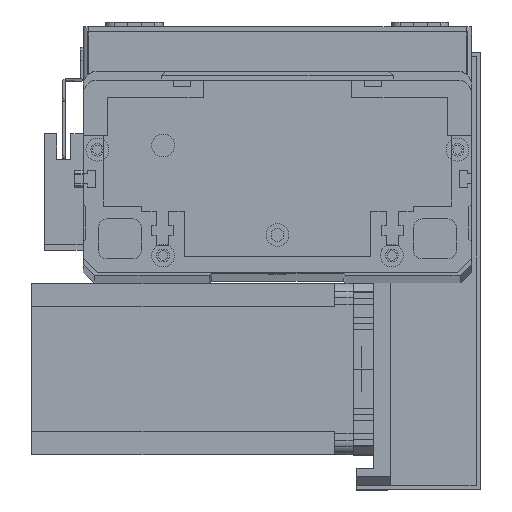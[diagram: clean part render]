
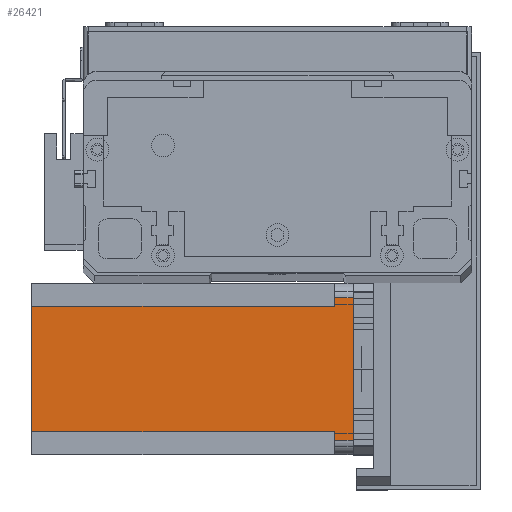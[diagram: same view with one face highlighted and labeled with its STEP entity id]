
A CAD part, top view. The second image highlights one B-rep face of the part: STEP entity #26421.
In plain terms, the highlighted planar face has unit normal (0, 0, 1) as drawn and (0, -1, 0) by its records, which use the part's own axes.
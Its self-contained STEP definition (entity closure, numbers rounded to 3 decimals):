
#37 = EDGE_CURVE ( 'NONE', #3668, #3854, #1426, .T. ) ;
#97 = VERTEX_POINT ( 'NONE', #26507 ) ;
#743 = ORIENTED_EDGE ( 'NONE', *, *, #3525, .T. ) ;
#834 = ORIENTED_EDGE ( 'NONE', *, *, #13690, .T. ) ;
#1060 = ORIENTED_EDGE ( 'NONE', *, *, #1580, .T. ) ;
#1354 = AXIS2_PLACEMENT_3D ( 'NONE', #27350, #11479, #18402 ) ;
#1426 = LINE ( 'NONE', #28034, #19907 ) ;
#1580 = EDGE_CURVE ( 'NONE', #3103, #3854, #4627, .T. ) ;
#1831 = DIRECTION ( 'NONE',  ( 1., 0., 0. ) ) ;
#3103 = VERTEX_POINT ( 'NONE', #20261 ) ;
#3225 = CARTESIAN_POINT ( 'NONE',  ( 52., 0., -112.5 ) ) ;
#3228 = VECTOR ( 'NONE', #22483, 1000. ) ;
#3525 = EDGE_CURVE ( 'NONE', #19216, #3103, #23259, .T. ) ;
#3668 = VERTEX_POINT ( 'NONE', #27346 ) ;
#3854 = VERTEX_POINT ( 'NONE', #25155 ) ;
#4081 = VECTOR ( 'NONE', #8135, 1000. ) ;
#4627 = LINE ( 'NONE', #21498, #28192 ) ;
#5746 = FACE_OUTER_BOUND ( 'NONE', #13542, .T. ) ;
#5818 = CARTESIAN_POINT ( 'NONE',  ( 5., 0., -112.5 ) ) ;
#6425 = CARTESIAN_POINT ( 'NONE',  ( 52., 0., -112.5 ) ) ;
#6991 = LINE ( 'NONE', #27165, #18513 ) ;
#8135 = DIRECTION ( 'NONE',  ( 0., 0., -1. ) ) ;
#8309 = CARTESIAN_POINT ( 'NONE',  ( 8., 0., -6.5 ) ) ;
#9043 = CARTESIAN_POINT ( 'NONE',  ( 8., 0., -6.5 ) ) ;
#11283 = VERTEX_POINT ( 'NONE', #14987 ) ;
#11336 = LINE ( 'NONE', #29279, #16730 ) ;
#11379 = DIRECTION ( 'NONE',  ( 0., 0., 1. ) ) ;
#11479 = DIRECTION ( 'NONE',  ( 0., -1., 0. ) ) ;
#12464 = ORIENTED_EDGE ( 'NONE', *, *, #15239, .F. ) ;
#13422 = VECTOR ( 'NONE', #26418, 1000. ) ;
#13542 = EDGE_LOOP ( 'NONE', ( #743, #1060, #15058, #834, #12464, #26124, #14111, #23688 ) ) ;
#13690 = EDGE_CURVE ( 'NONE', #3668, #11283, #22454, .T. ) ;
#13922 = EDGE_CURVE ( 'NONE', #97, #18246, #11336, .T. ) ;
#14111 = ORIENTED_EDGE ( 'NONE', *, *, #13922, .T. ) ;
#14987 = CARTESIAN_POINT ( 'NONE',  ( 5., 0., -6.5 ) ) ;
#15058 = ORIENTED_EDGE ( 'NONE', *, *, #37, .F. ) ;
#15239 = EDGE_CURVE ( 'NONE', #17969, #11283, #15579, .T. ) ;
#15579 = LINE ( 'NONE', #8309, #13422 ) ;
#16092 = PLANE ( 'NONE',  #1354 ) ;
#16730 = VECTOR ( 'NONE', #27042, 1000. ) ;
#17969 = VERTEX_POINT ( 'NONE', #9043 ) ;
#18246 = VERTEX_POINT ( 'NONE', #3225 ) ;
#18402 = DIRECTION ( 'NONE',  ( 0., 0., -1. ) ) ;
#18513 = VECTOR ( 'NONE', #11379, 1000. ) ;
#19216 = VERTEX_POINT ( 'NONE', #29319 ) ;
#19746 = EDGE_CURVE ( 'NONE', #19216, #18246, #20923, .T. ) ;
#19907 = VECTOR ( 'NONE', #1831, 1000. ) ;
#20261 = CARTESIAN_POINT ( 'NONE',  ( 55., 0., -6.5 ) ) ;
#20923 = LINE ( 'NONE', #6425, #3228 ) ;
#21498 = CARTESIAN_POINT ( 'NONE',  ( 55., 0., -112.5 ) ) ;
#22454 = LINE ( 'NONE', #5818, #4081 ) ;
#22483 = DIRECTION ( 'NONE',  ( 0., 0., -1. ) ) ;
#23259 = LINE ( 'NONE', #28788, #29162 ) ;
#23688 = ORIENTED_EDGE ( 'NONE', *, *, #19746, .F. ) ;
#24009 = EDGE_CURVE ( 'NONE', #97, #17969, #6991, .T. ) ;
#24510 = DIRECTION ( 'NONE',  ( 0., 0., 1. ) ) ;
#25155 = CARTESIAN_POINT ( 'NONE',  ( 55., 0., 0. ) ) ;
#26124 = ORIENTED_EDGE ( 'NONE', *, *, #24009, .F. ) ;
#26418 = DIRECTION ( 'NONE',  ( -1., 0., 0. ) ) ;
#26421 = ADVANCED_FACE ( 'NONE', ( #5746 ), #16092, .T. ) ;
#26507 = CARTESIAN_POINT ( 'NONE',  ( 8., 0., -112.5 ) ) ;
#27042 = DIRECTION ( 'NONE',  ( 1., 0., 0. ) ) ;
#27165 = CARTESIAN_POINT ( 'NONE',  ( 8., 0., -112.5 ) ) ;
#27346 = CARTESIAN_POINT ( 'NONE',  ( 5., 0., 0. ) ) ;
#27350 = CARTESIAN_POINT ( 'NONE',  ( 0., 0., -112.5 ) ) ;
#28034 = CARTESIAN_POINT ( 'NONE',  ( 0., 0., 0. ) ) ;
#28192 = VECTOR ( 'NONE', #24510, 1000. ) ;
#28788 = CARTESIAN_POINT ( 'NONE',  ( 52., 0., -6.5 ) ) ;
#29067 = DIRECTION ( 'NONE',  ( 1., 0., 0. ) ) ;
#29162 = VECTOR ( 'NONE', #29067, 1000. ) ;
#29279 = CARTESIAN_POINT ( 'NONE',  ( 0., 0., -112.5 ) ) ;
#29319 = CARTESIAN_POINT ( 'NONE',  ( 52., 0., -6.5 ) ) ;
